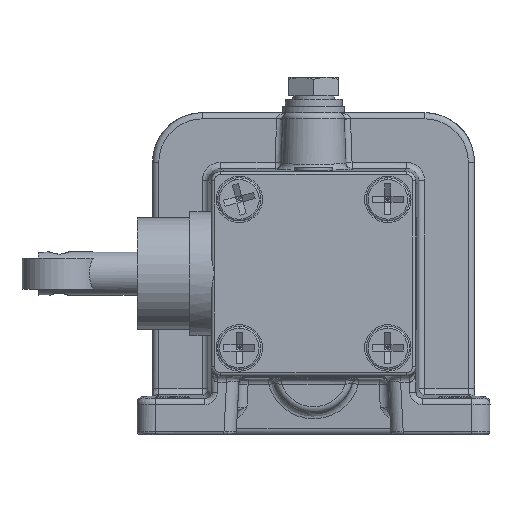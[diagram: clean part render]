
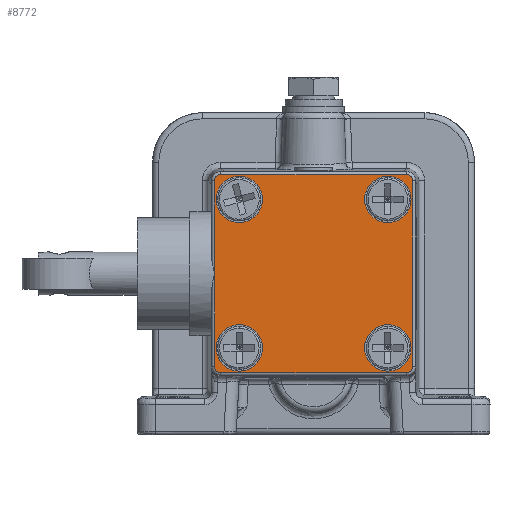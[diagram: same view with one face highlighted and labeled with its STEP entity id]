
A CAD part, left-side view. The second image highlights one B-rep face of the part: STEP entity #8772.
In plain terms, the highlighted planar face has unit normal (-1, 0, 0).
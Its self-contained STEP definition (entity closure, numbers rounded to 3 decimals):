
#7379=CARTESIAN_POINT('',(-76.253,16.,0.));
#7380=VERTEX_POINT('',#7379);
#8091=CARTESIAN_POINT('',(-76.253,-16.,-15.0));
#8092=VERTEX_POINT('',#8091);
#8101=CARTESIAN_POINT('',(-76.253,-16.,15.0));
#8102=VERTEX_POINT('',#8101);
#8110=CARTESIAN_POINT('',(-76.253,-16.,-15.0));
#8111=DIRECTION('',(0.0,0.0,1.0));
#8112=VECTOR('',#8111,30.0);
#8113=LINE('',#8110,#8112);
#8114=EDGE_CURVE('',#8092,#8102,#8113,.T.);
#8124=CARTESIAN_POINT('',(-76.253,-15.,-16.));
#8125=VERTEX_POINT('',#8124);
#8135=CARTESIAN_POINT('',(-76.253,-15.,-15.0));
#8136=DIRECTION('',(-1.0,0.0,0.0));
#8137=DIRECTION('',(0.0,0.0,-1.0));
#8138=AXIS2_PLACEMENT_3D('',#8135,#8136,#8137);
#8139=CIRCLE('',#8138,1.);
#8140=EDGE_CURVE('',#8125,#8092,#8139,.T.);
#8150=CARTESIAN_POINT('',(-76.253,15.,-16.));
#8151=VERTEX_POINT('',#8150);
#8161=CARTESIAN_POINT('',(-76.253,15.,-16.));
#8162=DIRECTION('',(0.0,-1.0,0.0));
#8163=VECTOR('',#8162,30.0);
#8164=LINE('',#8161,#8163);
#8165=EDGE_CURVE('',#8151,#8125,#8164,.T.);
#8175=CARTESIAN_POINT('',(-76.253,16.,-15.));
#8176=VERTEX_POINT('',#8175);
#8194=CARTESIAN_POINT('',(-76.253,15.,-15.));
#8195=DIRECTION('',(-1.0,0.0,0.0));
#8196=DIRECTION('',(0.0,1.0,0.0));
#8197=AXIS2_PLACEMENT_3D('',#8194,#8195,#8196);
#8198=CIRCLE('',#8197,1.);
#8199=EDGE_CURVE('',#8176,#8151,#8198,.T.);
#8264=CARTESIAN_POINT('',(-76.253,16.,15.));
#8265=VERTEX_POINT('',#8264);
#8275=CARTESIAN_POINT('',(-76.253,16.,15.));
#8276=DIRECTION('',(0.0,0.0,-1.0));
#8277=VECTOR('',#8276,15.0);
#8278=LINE('',#8275,#8277);
#8279=EDGE_CURVE('',#8265,#7380,#8278,.T.);
#8290=CARTESIAN_POINT('',(-76.253,16.,0.));
#8291=DIRECTION('',(0.0,0.0,-1.0));
#8292=VECTOR('',#8291,15.0);
#8293=LINE('',#8290,#8292);
#8294=EDGE_CURVE('',#7380,#8176,#8293,.T.);
#8306=CARTESIAN_POINT('',(-76.253,15.,16.));
#8307=VERTEX_POINT('',#8306);
#8317=CARTESIAN_POINT('',(-76.253,15.,15.));
#8318=DIRECTION('',(-1.0,0.0,0.0));
#8319=DIRECTION('',(0.0,0.0,1.0));
#8320=AXIS2_PLACEMENT_3D('',#8317,#8318,#8319);
#8321=CIRCLE('',#8320,1.);
#8322=EDGE_CURVE('',#8307,#8265,#8321,.T.);
#8332=CARTESIAN_POINT('',(-76.253,-15.,16.0));
#8333=VERTEX_POINT('',#8332);
#8343=CARTESIAN_POINT('',(-76.253,-15.,16.0));
#8344=DIRECTION('',(0.0,1.0,0.0));
#8345=VECTOR('',#8344,30.0);
#8346=LINE('',#8343,#8345);
#8347=EDGE_CURVE('',#8333,#8307,#8346,.T.);
#8366=CARTESIAN_POINT('',(-76.253,-15.,15.0));
#8367=DIRECTION('',(-1.0,0.0,0.0));
#8368=DIRECTION('',(0.0,-1.0,0.0));
#8369=AXIS2_PLACEMENT_3D('',#8366,#8367,#8368);
#8370=CIRCLE('',#8369,1.);
#8371=EDGE_CURVE('',#8102,#8333,#8370,.T.);
#8393=CARTESIAN_POINT('',(-76.253,12.,15.75));
#8394=VERTEX_POINT('',#8393);
#8412=CARTESIAN_POINT('',(-76.253,12.,8.25));
#8413=VERTEX_POINT('',#8412);
#8420=CARTESIAN_POINT('',(-76.253,12.,12.));
#8421=DIRECTION('',(1.0,0.0,0.0));
#8422=DIRECTION('',(0.0,0.0,1.0));
#8423=AXIS2_PLACEMENT_3D('',#8420,#8421,#8422);
#8424=CIRCLE('',#8423,3.75);
#8425=EDGE_CURVE('',#8394,#8413,#8424,.T.);
#8444=CARTESIAN_POINT('',(-76.253,12.,12.));
#8445=DIRECTION('',(1.0,0.0,0.0));
#8446=DIRECTION('',(0.0,0.0,-1.0));
#8447=AXIS2_PLACEMENT_3D('',#8444,#8445,#8446);
#8448=CIRCLE('',#8447,3.75);
#8449=EDGE_CURVE('',#8413,#8394,#8448,.T.);
#8473=CARTESIAN_POINT('',(-76.253,12.,-8.25));
#8474=VERTEX_POINT('',#8473);
#8492=CARTESIAN_POINT('',(-76.253,12.,-15.75));
#8493=VERTEX_POINT('',#8492);
#8500=CARTESIAN_POINT('',(-76.253,12.,-12.));
#8501=DIRECTION('',(1.0,0.0,0.0));
#8502=DIRECTION('',(0.0,0.0,1.0));
#8503=AXIS2_PLACEMENT_3D('',#8500,#8501,#8502);
#8504=CIRCLE('',#8503,3.75);
#8505=EDGE_CURVE('',#8474,#8493,#8504,.T.);
#8524=CARTESIAN_POINT('',(-76.253,12.,-12.));
#8525=DIRECTION('',(1.0,0.0,0.0));
#8526=DIRECTION('',(0.0,0.0,-1.0));
#8527=AXIS2_PLACEMENT_3D('',#8524,#8525,#8526);
#8528=CIRCLE('',#8527,3.75);
#8529=EDGE_CURVE('',#8493,#8474,#8528,.T.);
#8571=CARTESIAN_POINT('',(-76.253,-15.75,12.));
#8572=VERTEX_POINT('',#8571);
#8588=CARTESIAN_POINT('',(-76.253,-8.25,12.0));
#8589=VERTEX_POINT('',#8588);
#8596=CARTESIAN_POINT('',(-76.253,-12.,12.));
#8597=DIRECTION('',(-1.0,0.0,0.0));
#8598=DIRECTION('',(0.0,1.0,0.0));
#8599=AXIS2_PLACEMENT_3D('',#8596,#8597,#8598);
#8600=CIRCLE('',#8599,3.75);
#8601=EDGE_CURVE('',#8589,#8572,#8600,.T.);
#8620=CARTESIAN_POINT('',(-76.253,-12.,12.));
#8621=DIRECTION('',(-1.0,0.0,0.0));
#8622=DIRECTION('',(0.0,-1.0,0.0));
#8623=AXIS2_PLACEMENT_3D('',#8620,#8621,#8622);
#8624=CIRCLE('',#8623,3.75);
#8625=EDGE_CURVE('',#8572,#8589,#8624,.T.);
#8695=CARTESIAN_POINT('',(-76.253,-8.25,-12.));
#8696=VERTEX_POINT('',#8695);
#8704=CARTESIAN_POINT('',(-76.253,-15.75,-12.));
#8705=VERTEX_POINT('',#8704);
#8712=CARTESIAN_POINT('',(-76.253,-12.,-12.));
#8713=DIRECTION('',(-1.0,0.0,0.0));
#8714=DIRECTION('',(0.0,-1.0,0.0));
#8715=AXIS2_PLACEMENT_3D('',#8712,#8713,#8714);
#8716=CIRCLE('',#8715,3.75);
#8717=EDGE_CURVE('',#8705,#8696,#8716,.T.);
#8730=CARTESIAN_POINT('',(-76.253,-12.,-12.));
#8731=DIRECTION('',(-1.0,0.0,0.0));
#8732=DIRECTION('',(0.0,1.0,0.0));
#8733=AXIS2_PLACEMENT_3D('',#8730,#8731,#8732);
#8734=CIRCLE('',#8733,3.75);
#8735=EDGE_CURVE('',#8696,#8705,#8734,.T.);
#8740=CARTESIAN_POINT('',(-76.253,0.,0.));
#8741=DIRECTION('',(1.0,0.0,0.0));
#8742=DIRECTION('',(0.0,0.0,-1.0));
#8743=AXIS2_PLACEMENT_3D('',#8740,#8741,#8742);
#8744=PLANE('',#8743);
#8745=ORIENTED_EDGE('',*,*,#8199,.T.);
#8746=ORIENTED_EDGE('',*,*,#8165,.T.);
#8747=ORIENTED_EDGE('',*,*,#8140,.T.);
#8748=ORIENTED_EDGE('',*,*,#8114,.T.);
#8749=ORIENTED_EDGE('',*,*,#8371,.T.);
#8750=ORIENTED_EDGE('',*,*,#8347,.T.);
#8751=ORIENTED_EDGE('',*,*,#8322,.T.);
#8752=ORIENTED_EDGE('',*,*,#8279,.T.);
#8753=ORIENTED_EDGE('',*,*,#8294,.T.);
#8754=EDGE_LOOP('',(#8745,#8746,#8747,#8748,#8749,#8750,#8751,#8752,#8753));
#8755=FACE_OUTER_BOUND('',#8754,.T.);
#8756=ORIENTED_EDGE('',*,*,#8601,.F.);
#8757=ORIENTED_EDGE('',*,*,#8625,.F.);
#8758=EDGE_LOOP('',(#8756,#8757));
#8759=FACE_BOUND('',#8758,.T.);
#8760=ORIENTED_EDGE('',*,*,#8529,.T.);
#8761=ORIENTED_EDGE('',*,*,#8505,.T.);
#8762=EDGE_LOOP('',(#8760,#8761));
#8763=FACE_BOUND('',#8762,.T.);
#8764=ORIENTED_EDGE('',*,*,#8449,.T.);
#8765=ORIENTED_EDGE('',*,*,#8425,.T.);
#8766=EDGE_LOOP('',(#8764,#8765));
#8767=FACE_BOUND('',#8766,.T.);
#8768=ORIENTED_EDGE('',*,*,#8717,.F.);
#8769=ORIENTED_EDGE('',*,*,#8735,.F.);
#8770=EDGE_LOOP('',(#8768,#8769));
#8771=FACE_BOUND('',#8770,.T.);
#8772=ADVANCED_FACE('',(#8755,#8759,#8763,#8767,#8771),#8744,.F.);
